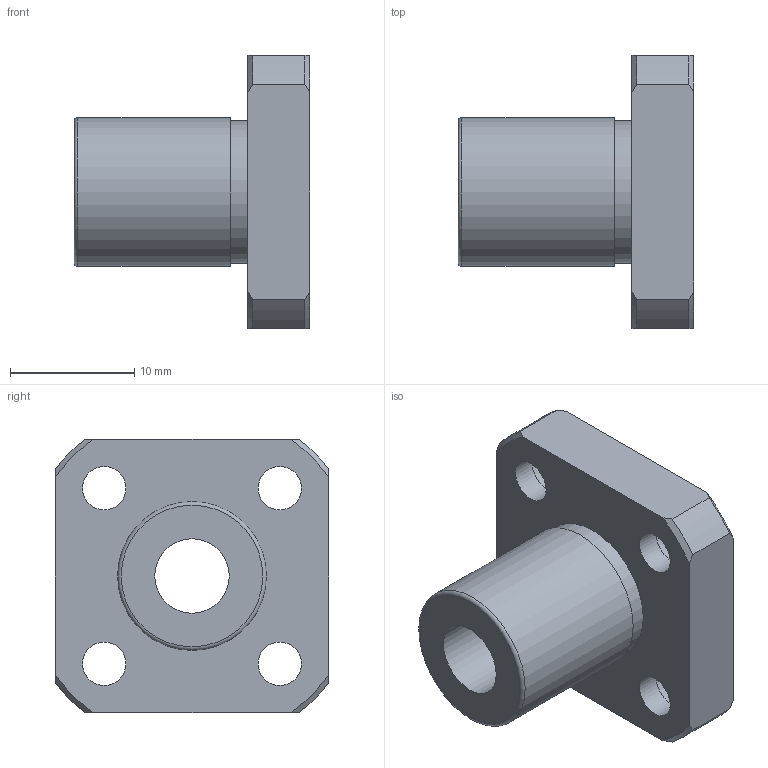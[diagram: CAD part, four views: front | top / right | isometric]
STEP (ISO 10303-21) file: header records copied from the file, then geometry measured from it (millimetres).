
FILE_DESCRIPTION(('STEP AP203'),'1');
FILE_NAME('//192.168.1.1/share/s-4 技術開発/s-4-4_CAD/s-4-4-3_見直し済み/002 修正済み/NF-V/NF-6VUU.step','2022-03-08T06:45:25',(' '),(' '),'Spatial InterOp 3D',' ',' ');
FILE_SCHEMA(('CONFIG_CONTROL_DESIGN'));
Length unit declared in the file: millimetre
Products named in the file (1): 1
Bounding box: 19 x 22 x 22 mm (x, y, z)
Volume: 2976.1 mm3; surface area: 2434 mm2
Topology: 1 solids, 1 shells, 36 faces, 91 edges, 63 vertices
Faces by surface type: cylinder 15, plane 12, cone 8, torus 1
Full cylindrical faces by diameter (mm): 3.5 x4, 6 x5, 11.5 x1, 12 x1
Entity records: 1026 total; most frequent: CARTESIAN_POINT 195, DIRECTION 168, ORIENTED_EDGE 142, AXIS2_PLACEMENT_3D 76, EDGE_CURVE 71, EDGE_LOOP 64, VERTEX_POINT 55, FACE_OUTER_BOUND 48
